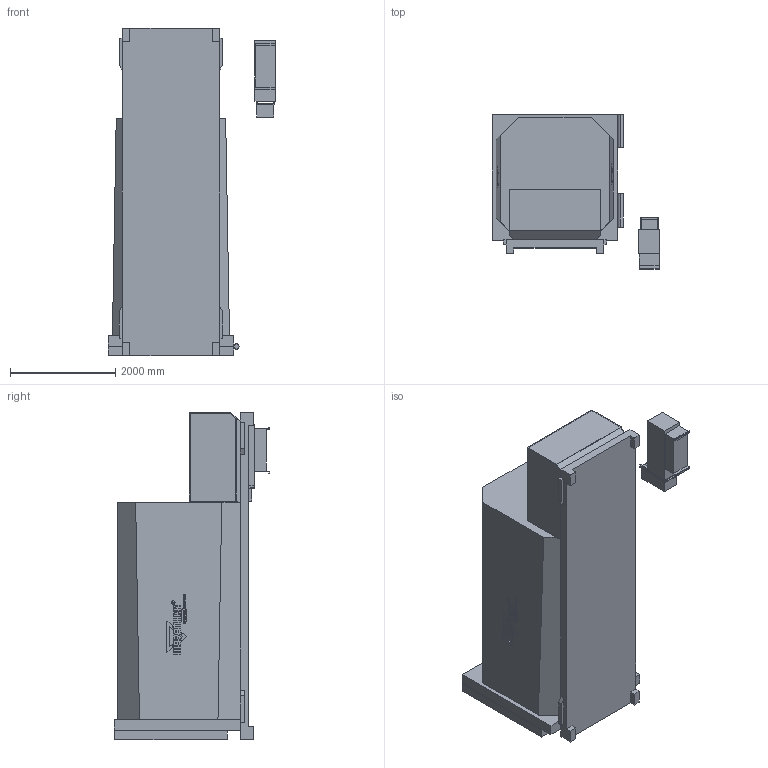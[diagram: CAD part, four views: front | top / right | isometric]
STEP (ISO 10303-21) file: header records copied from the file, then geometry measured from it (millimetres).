
FILE_DESCRIPTION((''),'2;1');
FILE_NAME('61277_ASM','2018-10-03T19:55:20',('10048000'),(''),'CREO PARAMETRIC BY PTC INC, 2017110','CREO PARAMETRIC BY PTC INC, 2017110','');
FILE_SCHEMA(('CONFIG_CONTROL_DESIGN'));
Products named in the file (3): STRUCTURE_61277; POWER_PACK_61277; 61277_ASM
Assembly tree (2 placements, depth 2):
  61277_ASM
    STRUCTURE_61277
    POWER_PACK_61277
Bounding box: 3187.7 x 2944.88 x 6211.89 mm (x, y, z)
Volume: 23765705757 mm3; surface area: 89643287 mm2
Topology: 5 solids, 5 shells, 3000 faces, 8271 edges, 5511 vertices
Faces by surface type: plane 2774, cylinder 226
Entity records: 93947 total; most frequent: CARTESIAN_POINT 16787, ORIENTED_EDGE 16542, DIRECTION 14733, EDGE_CURVE 8271, VECTOR 7819, LINE 7819, VERTEX_POINT 5511, AXIS2_PLACEMENT_3D 3457
